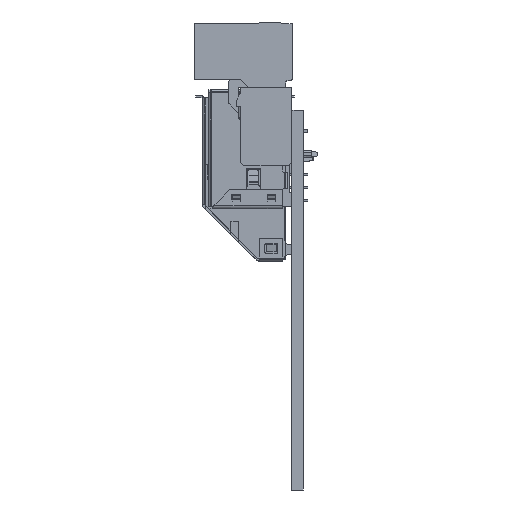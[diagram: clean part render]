
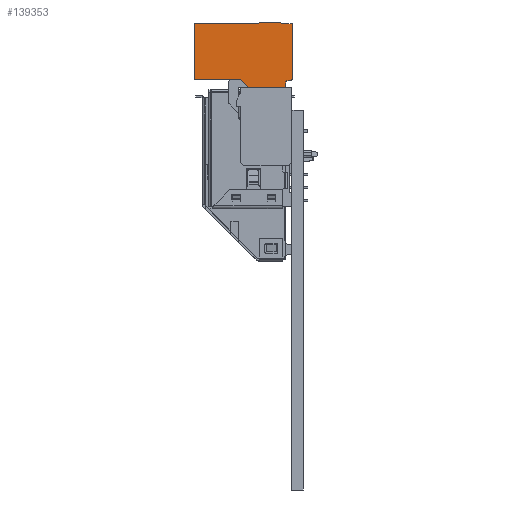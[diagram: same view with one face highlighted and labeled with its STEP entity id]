
A CAD part, left-side view. The second image highlights one B-rep face of the part: STEP entity #139353.
In plain terms, the highlighted planar face has unit normal (-1, 0, 0).
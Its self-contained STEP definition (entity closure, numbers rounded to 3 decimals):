
#5145=CIRCLE('',#149459,0.2);
#5146=CIRCLE('',#149460,0.3);
#11243=FACE_OUTER_BOUND('',#18673,.T.);
#18673=EDGE_LOOP('',(#120777,#120778,#120779,#120780,#120781,#120782,#120783,
#120784,#120785,#120786,#120787,#120788,#120789));
#33782=LINE('',#223231,#50742);
#33783=LINE('',#223233,#50743);
#33784=LINE('',#223235,#50744);
#33785=LINE('',#223237,#50745);
#33786=LINE('',#223239,#50746);
#33787=LINE('',#223241,#50747);
#33788=LINE('',#223245,#50748);
#33789=LINE('',#223249,#50749);
#33790=LINE('',#223251,#50750);
#33791=LINE('',#223253,#50751);
#33792=LINE('',#223254,#50752);
#50742=VECTOR('',#182258,10.);
#50743=VECTOR('',#182259,10.);
#50744=VECTOR('',#182260,10.);
#50745=VECTOR('',#182261,14.55);
#50746=VECTOR('',#182262,1.65);
#50747=VECTOR('',#182263,10.);
#50748=VECTOR('',#182266,10.);
#50749=VECTOR('',#182269,10.);
#50750=VECTOR('',#182270,10.);
#50751=VECTOR('',#182271,10.);
#50752=VECTOR('',#182272,10.);
#64743=VERTEX_POINT('',#223229);
#64744=VERTEX_POINT('',#223230);
#64745=VERTEX_POINT('',#223232);
#64746=VERTEX_POINT('',#223234);
#64747=VERTEX_POINT('',#223236);
#64748=VERTEX_POINT('',#223238);
#64749=VERTEX_POINT('',#223240);
#64750=VERTEX_POINT('',#223242);
#64751=VERTEX_POINT('',#223244);
#64752=VERTEX_POINT('',#223246);
#64753=VERTEX_POINT('',#223248);
#64754=VERTEX_POINT('',#223250);
#64755=VERTEX_POINT('',#223252);
#83821=EDGE_CURVE('',#64743,#64744,#33782,.T.);
#83822=EDGE_CURVE('',#64744,#64745,#33783,.T.);
#83823=EDGE_CURVE('',#64746,#64745,#33784,.T.);
#83824=EDGE_CURVE('',#64747,#64746,#33785,.T.);
#83825=EDGE_CURVE('',#64747,#64748,#33786,.T.);
#83826=EDGE_CURVE('',#64748,#64749,#33787,.T.);
#83827=EDGE_CURVE('',#64749,#64750,#5145,.T.);
#83828=EDGE_CURVE('',#64750,#64751,#33788,.T.);
#83829=EDGE_CURVE('',#64751,#64752,#5146,.T.);
#83830=EDGE_CURVE('',#64752,#64753,#33789,.T.);
#83831=EDGE_CURVE('',#64753,#64754,#33790,.T.);
#83832=EDGE_CURVE('',#64754,#64755,#33791,.T.);
#83833=EDGE_CURVE('',#64755,#64743,#33792,.T.);
#120777=ORIENTED_EDGE('',*,*,#83821,.T.);
#120778=ORIENTED_EDGE('',*,*,#83822,.T.);
#120779=ORIENTED_EDGE('',*,*,#83823,.F.);
#120780=ORIENTED_EDGE('',*,*,#83824,.F.);
#120781=ORIENTED_EDGE('',*,*,#83825,.T.);
#120782=ORIENTED_EDGE('',*,*,#83826,.T.);
#120783=ORIENTED_EDGE('',*,*,#83827,.T.);
#120784=ORIENTED_EDGE('',*,*,#83828,.T.);
#120785=ORIENTED_EDGE('',*,*,#83829,.T.);
#120786=ORIENTED_EDGE('',*,*,#83830,.T.);
#120787=ORIENTED_EDGE('',*,*,#83831,.T.);
#120788=ORIENTED_EDGE('',*,*,#83832,.T.);
#120789=ORIENTED_EDGE('',*,*,#83833,.T.);
#132448=PLANE('',#149458);
#139353=ADVANCED_FACE('',(#11243),#132448,.F.);
#149458=AXIS2_PLACEMENT_3D('',#223228,#182256,#182257);
#149459=AXIS2_PLACEMENT_3D('',#223243,#182264,#182265);
#149460=AXIS2_PLACEMENT_3D('',#223247,#182267,#182268);
#182256=DIRECTION('center_axis',(1.,0.,0.));
#182257=DIRECTION('ref_axis',(0.,-1.,0.));
#182258=DIRECTION('',(0.,1.,0.));
#182259=DIRECTION('',(0.,0.,-1.));
#182260=DIRECTION('',(0.,1.,0.));
#182261=DIRECTION('',(0.,0.707,0.707));
#182262=DIRECTION('',(0.,-1.,0.));
#182263=DIRECTION('',(0.,0.,1.));
#182264=DIRECTION('center_axis',(1.,0.,0.));
#182265=DIRECTION('ref_axis',(0.,0.,
1.));
#182266=DIRECTION('',(0.,-1.,0.));
#182267=DIRECTION('center_axis',(-1.,0.,0.));
#182268=DIRECTION('ref_axis',(0.,0.,
-1.));
#182269=DIRECTION('',(0.,0.,1.));
#182270=DIRECTION('',(0.,1.,0.));
#182271=DIRECTION('',(0.,0.541,0.841));
#182272=DIRECTION('',(0.,0.999,-0.048));
#223228=CARTESIAN_POINT('Origin',(1.445,11.37,18.872));
#223229=CARTESIAN_POINT('',(1.445,8.67,13.272));
#223230=CARTESIAN_POINT('',(1.445,16.67,13.272));
#223231=CARTESIAN_POINT('',(1.445,12.008,13.272));
#223232=CARTESIAN_POINT('',(1.445,16.67,4.772));
#223233=CARTESIAN_POINT('',(1.445,16.67,16.072));
#223234=CARTESIAN_POINT('',(1.445,9.593,4.772));
#223235=CARTESIAN_POINT('',(1.445,-3.63,4.772));
#223236=CARTESIAN_POINT('',(1.445,8.343,3.522));
#223237=CARTESIAN_POINT('',(1.445,8.119,3.298));
#223238=CARTESIAN_POINT('',(1.445,2.67,3.522));
#223239=CARTESIAN_POINT('',(1.445,9.97,3.522));
#223240=CARTESIAN_POINT('',(1.445,2.67,4.322));
#223241=CARTESIAN_POINT('',(1.445,2.67,11.197));
#223242=CARTESIAN_POINT('',(1.445,2.47,4.522));
#223243=CARTESIAN_POINT('Origin',(1.445,2.47,4.322));
#223244=CARTESIAN_POINT('',(1.445,1.97,4.522));
#223245=CARTESIAN_POINT('',(1.445,6.92,4.522));
#223246=CARTESIAN_POINT('',(1.445,1.67,4.822));
#223247=CARTESIAN_POINT('Origin',(1.445,1.97,4.822));
#223248=CARTESIAN_POINT('',(1.445,1.67,13.272));
#223249=CARTESIAN_POINT('',(1.445,1.67,11.847));
#223250=CARTESIAN_POINT('',(1.445,3.309,13.272));
#223251=CARTESIAN_POINT('',(1.445,5.189,13.272));
#223252=CARTESIAN_POINT('',(1.445,3.47,13.522));
#223253=CARTESIAN_POINT('',(1.445,5.763,17.087));
#223254=CARTESIAN_POINT('',(1.445,7.283,13.339));
